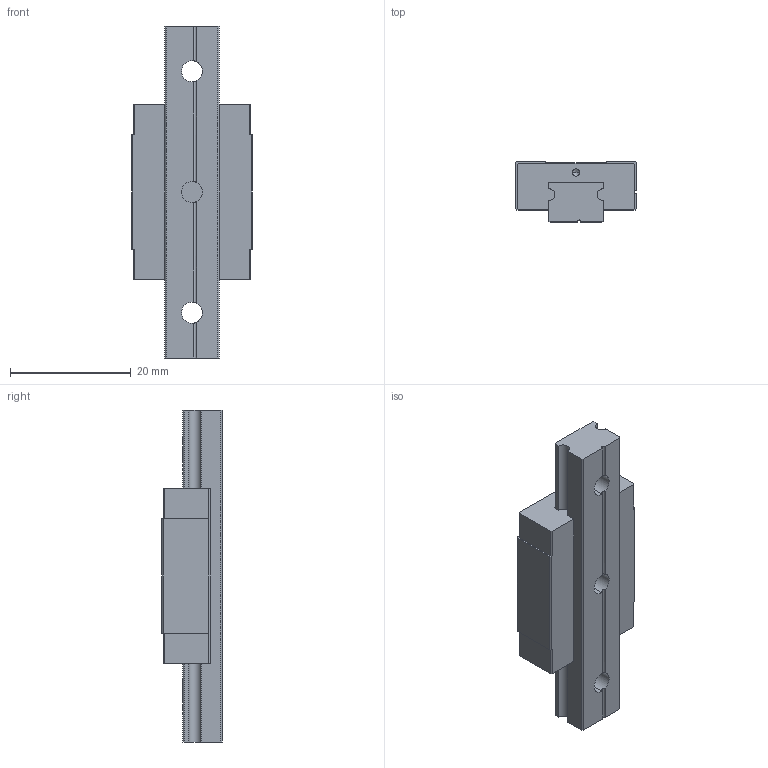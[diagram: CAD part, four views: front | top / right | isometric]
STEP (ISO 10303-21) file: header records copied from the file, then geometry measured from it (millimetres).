
FILE_DESCRIPTION (( 'STEP AP203' ), '1' );
FILE_NAME ('MGN9C_2.STEP', '2021-11-16T10:56:05', ( '' ), ( '' ), 'SwSTEP 2.0', 'SolidWorks 2019', '' );
FILE_SCHEMA (( 'CONFIG_CONTROL_DESIGN' ));
Length unit declared in the file: millimetre
Products named in the file (1): MGN9C_2
Bounding box: 20 x 10 x 55 mm (x, y, z)
Volume: 5949.8 mm3; surface area: 4499.6 mm2
Topology: 2 solids, 2 shells, 182 faces, 504 edges, 326 vertices
Faces by surface type: plane 92, bspline 42, cylinder 36, cone 12
Entity records: 6489 total; most frequent: CARTESIAN_POINT 2045, ORIENTED_EDGE 984, DIRECTION 760, EDGE_CURVE 492, LINE 326, VERTEX_POINT 326, VECTOR 326, AXIS2_PLACEMENT_3D 217
